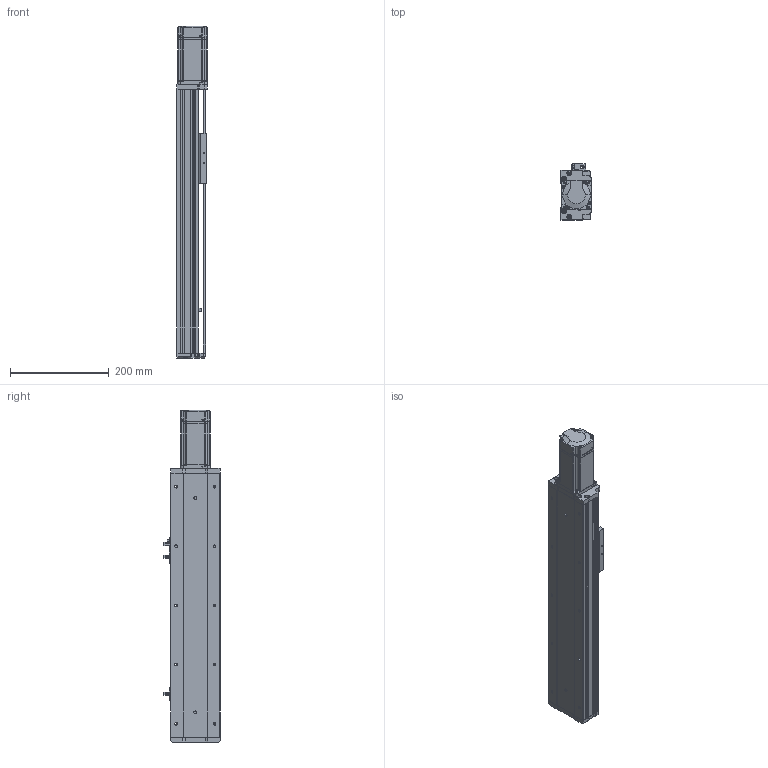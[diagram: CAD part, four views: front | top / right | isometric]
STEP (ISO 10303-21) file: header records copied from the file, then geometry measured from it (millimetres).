
FILE_DESCRIPTION (( 'STEP AP214' ), '1' );
FILE_NAME ('KSD100S-S300-MN-CM.STEP', '2019-08-30T06:54:50', ( '微软用户' ), ( '微软中国' ), 'SwSTEP 2.0', 'SolidWorks 2014', '' );
FILE_SCHEMA (( 'AUTOMOTIVE_DESIGN' ));
Length unit declared in the file: millimetre
Products named in the file (9): 100宽底板半封闭300行程丝杆不带电机座; KSD100S-S300-MN-CM; MHMD042G1CA_2_03; 覜茼え100遵圉猾敕; U倰嫖萇EEㄜSX672; 100宽防尘板丝杆300行程不带电机座; 100宽马达安装板不带电机座; 100宽滚珠螺姆安装板半封闭; 100遵傷啣
Assembly tree (10 placements, depth 2):
  KSD100S-S300-MN-CM
    100宽底板半封闭300行程丝杆不带电机座
    100遵傷啣
    100宽滚珠螺姆安装板半封闭
    100宽马达安装板不带电机座
    100宽防尘板丝杆300行程不带电机座
    U倰嫖萇EEㄜSX672  x3
    覜茼え100遵圉猾敕
    MHMD042G1CA_2_03
Bounding box: 62 x 113.7 x 673.5 mm (x, y, z)
Volume: 1162613.6 mm3; surface area: 455801.4 mm2
Topology: 9 solids, 10 shells, 1296 faces, 3703 edges, 2390 vertices
Faces by surface type: plane 585, cylinder 561, cone 132, bspline 18
Entity records: 47441 total; most frequent: CARTESIAN_POINT 8584, DIRECTION 6237, ORIENTED_EDGE 5946, EDGE_CURVE 3045, AXIS2_PLACEMENT_3D 2213, VERTEX_POINT 2014, LINE 1811, VECTOR 1811
